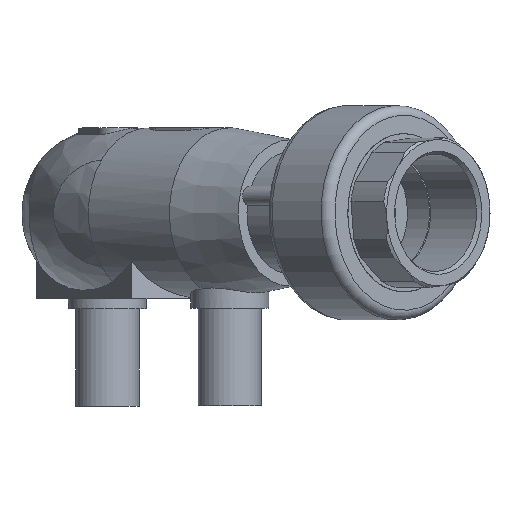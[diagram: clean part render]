
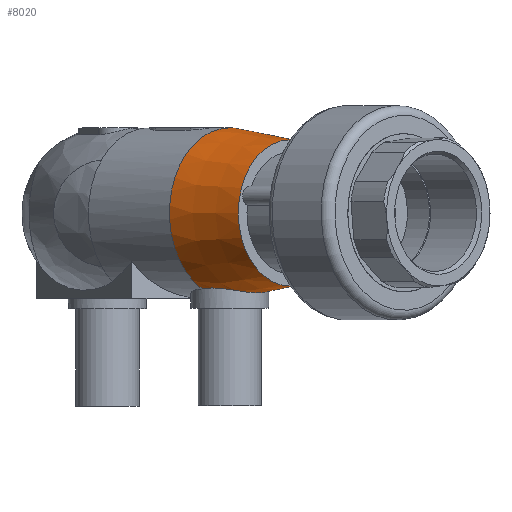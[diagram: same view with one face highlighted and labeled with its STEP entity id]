
A CAD part, top view. The second image highlights one B-rep face of the part: STEP entity #8020.
In plain terms, the highlighted conical face has half-angle 8.13 degrees and reference radius 15 mm.
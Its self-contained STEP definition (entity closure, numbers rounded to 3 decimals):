
#76=CONICAL_SURFACE('',#10284,15.,0.142);
#954=CIRCLE('',#10253,17.5);
#959=CIRCLE('',#10266,15.);
#1474=ORIENTED_EDGE('',*,*,#4021,.F.);
#1475=ORIENTED_EDGE('',*,*,#3967,.T.);
#1476=ORIENTED_EDGE('',*,*,#3998,.F.);
#3967=EDGE_CURVE('',#5255,#5256,#954,.T.);
#3998=EDGE_CURVE('',#5282,#5282,#959,.T.);
#4021=EDGE_CURVE('',#5255,#5256,#6075,.T.);
#5255=VERTEX_POINT('',#13783);
#5256=VERTEX_POINT('',#13784);
#5282=VERTEX_POINT('',#14124);
#6075=B_SPLINE_CURVE_WITH_KNOTS('',3,(#14814,#14815,#14816,#14817,#14818,
#14819,#14820,#14821,#14822,#14823,#14824),.UNSPECIFIED.,.F.,.F.,(4,1,1,
1,1,1,1,1,4),(0.007,0.01,0.013,
0.016,0.019,0.023,0.026,
0.029,0.032),.UNSPECIFIED.);
#6538=EDGE_LOOP('',(#1474,#1475));
#6539=EDGE_LOOP('',(#1476));
#7169=FACE_BOUND('',#6538,.T.);
#7170=FACE_BOUND('',#6539,.T.);
#8020=ADVANCED_FACE('',(#7169,#7170),#76,.T.);
#10253=AXIS2_PLACEMENT_3D('',#13782,#11239,#11240);
#10266=AXIS2_PLACEMENT_3D('',#14123,#11271,#11272);
#10284=AXIS2_PLACEMENT_3D('',#14813,#11307,#11308);
#11239=DIRECTION('',(0.707,0.,0.707));
#11240=DIRECTION('',(0.707,0.,-0.707));
#11271=DIRECTION('',(0.707,0.,0.707));
#11272=DIRECTION('',(0.707,0.,-0.707));
#11307=DIRECTION('',(-0.707,0.,-0.707));
#11308=DIRECTION('',(-0.707,0.,0.707));
#13782=CARTESIAN_POINT('',(25.102,0.,25.102));
#13783=CARTESIAN_POINT('',(30.759,-15.564,19.445));
#13784=CARTESIAN_POINT('',(19.445,-15.564,30.759));
#14123=CARTESIAN_POINT('',(37.477,0.,37.477));
#14124=CARTESIAN_POINT('',(48.083,0.,26.87));
#14813=CARTESIAN_POINT('',(37.477,0.,37.477));
#14814=CARTESIAN_POINT('',(30.759,-15.564,19.445));
#14815=CARTESIAN_POINT('',(31.49,-15.398,20.176));
#14816=CARTESIAN_POINT('',(32.691,-15.283,21.965));
#14817=CARTESIAN_POINT('',(33.308,-15.685,25.109));
#14818=CARTESIAN_POINT('',(32.691,-16.203,28.228));
#14819=CARTESIAN_POINT('',(30.909,-16.434,30.91));
#14820=CARTESIAN_POINT('',(28.226,-16.203,32.692));
#14821=CARTESIAN_POINT('',(25.11,-15.685,33.307));
#14822=CARTESIAN_POINT('',(21.972,-15.284,32.692));
#14823=CARTESIAN_POINT('',(20.186,-15.396,31.5));
#14824=CARTESIAN_POINT('',(19.445,-15.564,30.759));
